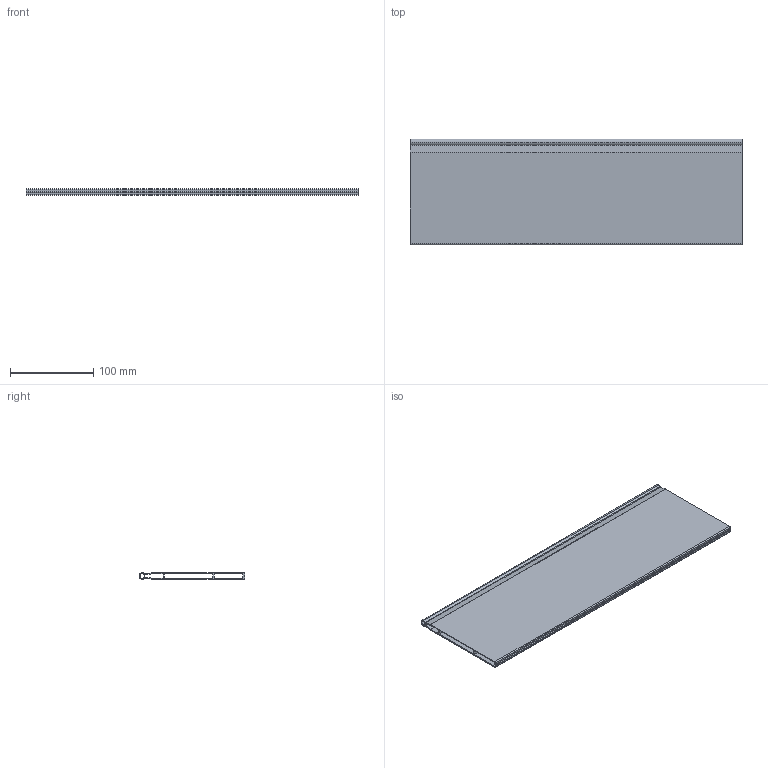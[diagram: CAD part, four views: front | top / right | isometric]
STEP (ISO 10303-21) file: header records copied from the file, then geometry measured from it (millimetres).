
FILE_DESCRIPTION (( 'STEP AP214' ), '1' );
FILE_NAME ('_Magic Optima Unterteilungsprofil DWD XP Agantis_Nova Pro KAB 550.step', '2010-08-17T12:26:45', ( 'grass' ), ( '' ), 'SwSTEP 2.0', 'SolidWorks 2010', '' );
FILE_SCHEMA (( 'AUTOMOTIVE_DESIGN' ));
Length unit declared in the file: millimetre
Products named in the file (1): _Magic Optima Unterteilungsprofil DWD XP Agantis_Nova Pro  KAB 550
Bounding box: 400 x 127.7 x 8.1 mm (x, y, z)
Volume: 140209.4 mm3; surface area: 217580.5 mm2
Topology: 1 solids, 1 shells, 39 faces, 111 edges, 74 vertices
Faces by surface type: plane 22, cylinder 17
Entity records: 1325 total; most frequent: CARTESIAN_POINT 225, DIRECTION 225, ORIENTED_EDGE 222, EDGE_CURVE 111, LINE 77, VECTOR 77, AXIS2_PLACEMENT_3D 74, VERTEX_POINT 74
